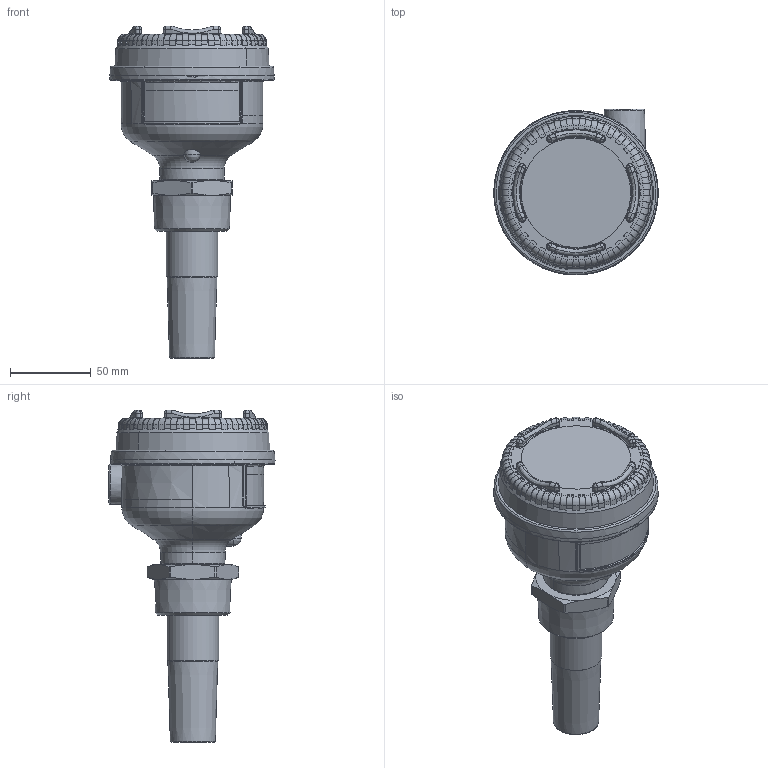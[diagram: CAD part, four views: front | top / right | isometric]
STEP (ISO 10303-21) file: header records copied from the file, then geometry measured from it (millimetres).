
FILE_DESCRIPTION(/* description */ (''),/* implementation_level */ '2;1');
FILE_NAME(/* name */ '\\SRVGEST\camlogic\TEMP\Kulwant S\2_STEP\2_STEP\PFG06\PFG-06.stp',/* time_stamp */ '2021-06-15T09:11:33+02:00',/* author */ ('kulwant.singh'),/* organization */ (''),/* preprocessor_version */ 'ST-DEVELOPER v18.1',/* originating_system */ 'Autodesk Inventor 2022',/* authorisation */ '');
FILE_SCHEMA (('AUTOMOTIVE_DESIGN { 1 0 10303 214 3 1 1 }'));
Length unit declared in the file: millimetre
Products named in the file (1): PFG-06
Bounding box: 101.97 x 103 x 206 mm (x, y, z)
Volume: 597811.5 mm3; surface area: 59664.4 mm2
Topology: 1 solids, 1 shells, 617 faces, 1754 edges, 1144 vertices
Faces by surface type: cylinder 176, plane 150, cone 100, torus 99, bspline 72, sphere 20
Full cylindrical faces by diameter (mm): 18.631 x1, 32 x1, 90.4 x1
Entity records: 29337 total; most frequent: CARTESIAN_POINT 13059, ORIENTED_EDGE 3500, DIRECTION 3245, EDGE_CURVE 1750, AXIS2_PLACEMENT_3D 1372, VERTEX_POINT 1144, CIRCLE 805, EDGE_LOOP 630
